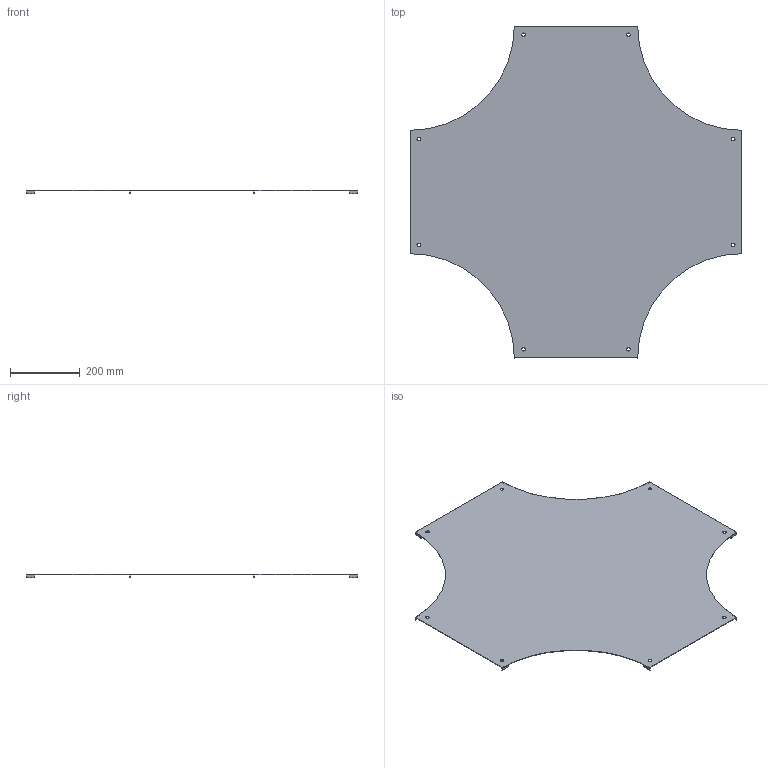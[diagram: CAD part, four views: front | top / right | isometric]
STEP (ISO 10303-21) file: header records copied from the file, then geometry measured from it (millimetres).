
FILE_DESCRIPTION(/* description */ ('','CAx-IF Rec.Pracs.---Representation and Presentation of Product Manufacturing Information (PMI)---4.0---2014-10-13'),/* implementation_level */ '2;1');
FILE_NAME(/* name */ 'Eurostrut_ECOC300-300_Cover Crossover for Cable Ladder ECL.step',/* time_stamp */ '2026-09-10T10:48:46+02:00',/* author */ (''),/* organization */ (''),/* preprocessor_version */ 'ST-DEVELOPER v20.1',/* originating_system */ 'Autodesk Revit 2027 27.2.0.39',/* authorisation */ '');
FILE_SCHEMA (('AP242_MANAGED_MODEL_BASED_3D_ENGINEERING_MIM_LF { 1 0 10303 442 2 1 4 }'));
Length unit declared in the file: millimetre
Products named in the file (6): TopLevelAssembly; Joined Solid Geometry; Joined Solid Geometry_1; Joined Solid Geometry_2; Joined Solid Geometry_3; Joined Solid Geometry_4
Assembly tree (5 placements, depth 2):
  TopLevelAssembly
    Joined Solid Geometry
    Joined Solid Geometry_1
    Joined Solid Geometry_2
    Joined Solid Geometry_3
    Joined Solid Geometry_4
Bounding box: 950 x 950 x 9 mm (x, y, z)
Volume: 935175.7 mm3; surface area: 1252990.2 mm2
Topology: 9 solids, 9 shells, 74 faces, 168 edges, 112 vertices
Faces by surface type: plane 38, cylinder 36
Entity records: 2242 total; most frequent: DIRECTION 410, CARTESIAN_POINT 365, ORIENTED_EDGE 336, EDGE_CURVE 168, AXIS2_PLACEMENT_3D 157, VERTEX_POINT 112, LINE 96, VECTOR 96
